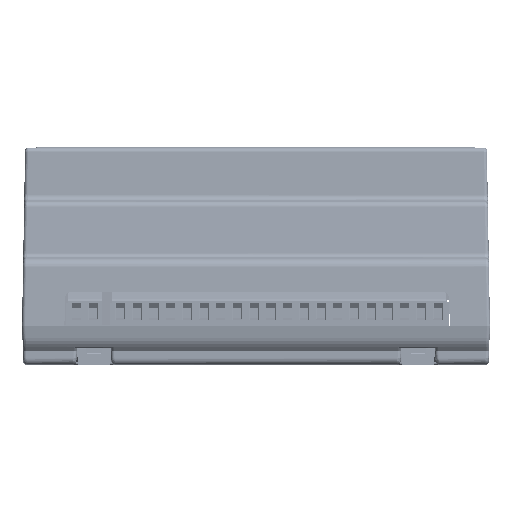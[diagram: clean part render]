
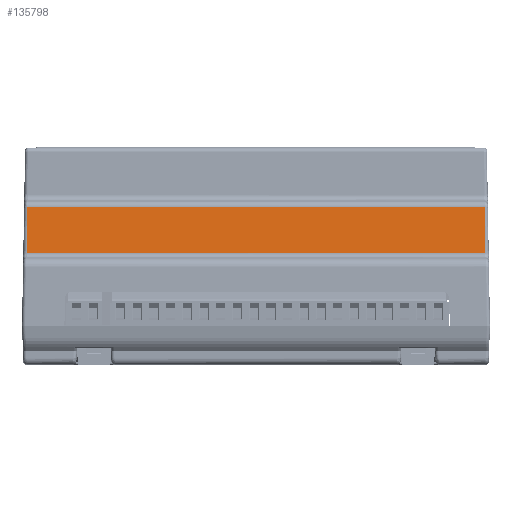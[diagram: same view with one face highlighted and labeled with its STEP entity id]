
A CAD part, left-side view. The second image highlights one B-rep face of the part: STEP entity #135798.
In plain terms, the highlighted planar face has unit normal (-0.996, 0, 0.087) as drawn and (0.996, 0, 0.087) by its records, which use the part's own axes.
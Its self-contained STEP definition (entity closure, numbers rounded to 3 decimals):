
#8997=FACE_OUTER_BOUND('',#16180,.T.);
#16180=EDGE_LOOP('',(#96954,#96955,#96956,#96957));
#25050=LINE('',#194302,#41770);
#25361=LINE('',#195349,#42081);
#25419=LINE('',#196453,#42139);
#25420=LINE('',#196512,#42140);
#41770=VECTOR('',#156107,10.);
#42081=VECTOR('',#156890,10.);
#42139=VECTOR('',#157148,10.);
#42140=VECTOR('',#157165,2.);
#58356=VERTEX_POINT('',#194299);
#58357=VERTEX_POINT('',#194301);
#58647=VERTEX_POINT('',#195347);
#58713=VERTEX_POINT('',#196448);
#72614=EDGE_CURVE('',#58356,#58357,#25050,.T.);
#73044=EDGE_CURVE('',#58357,#58647,#25361,.T.);
#73180=EDGE_CURVE('',#58713,#58356,#25419,.T.);
#73185=EDGE_CURVE('',#58647,#58713,#25420,.T.);
#96954=ORIENTED_EDGE('',*,*,#73185,.F.);
#96955=ORIENTED_EDGE('',*,*,#73044,.F.);
#96956=ORIENTED_EDGE('',*,*,#72614,.F.);
#96957=ORIENTED_EDGE('',*,*,#73180,.F.);
#129586=PLANE('',#143852);
#135798=ADVANCED_FACE('',(#8997),#129586,.T.);
#143852=AXIS2_PLACEMENT_3D('',#196511,#157163,#157164);
#156107=DIRECTION('',(0.,-1.,0.));
#156890=DIRECTION('',(-0.087,0.017,0.996));
#157148=DIRECTION('',(0.087,0.017,-0.996));
#157163=DIRECTION('center_axis',(0.996,0.,0.087));
#157164=DIRECTION('ref_axis',(0.087,0.,-0.996));
#157165=DIRECTION('',(0.,1.,0.));
#194299=CARTESIAN_POINT('',(34.048,103.623,33.369));
#194301=CARTESIAN_POINT('',(34.048,-33.623,33.369));
#194302=CARTESIAN_POINT('',(34.048,-35.,33.369));
#195347=CARTESIAN_POINT('',(32.84,-33.382,47.174));
#195349=CARTESIAN_POINT('',(35.358,-33.884,18.396));
#196448=CARTESIAN_POINT('',(32.84,103.382,47.174));
#196453=CARTESIAN_POINT('',(35.305,103.874,19.002));
#196511=CARTESIAN_POINT('Origin',(34.008,0.,33.826));
#196512=CARTESIAN_POINT('',(32.84,35.,47.174));
